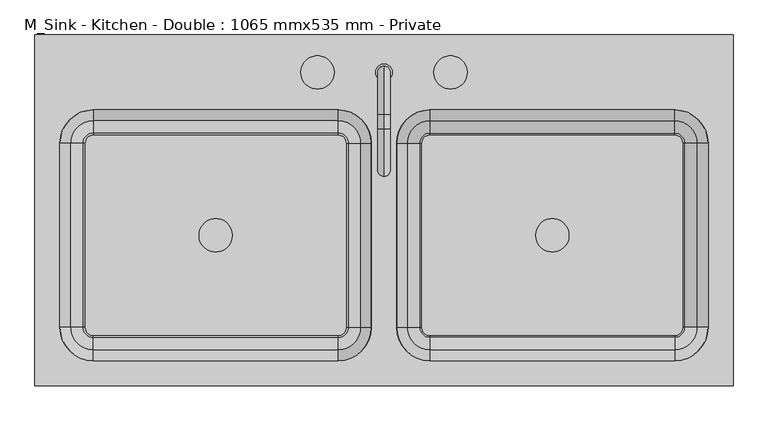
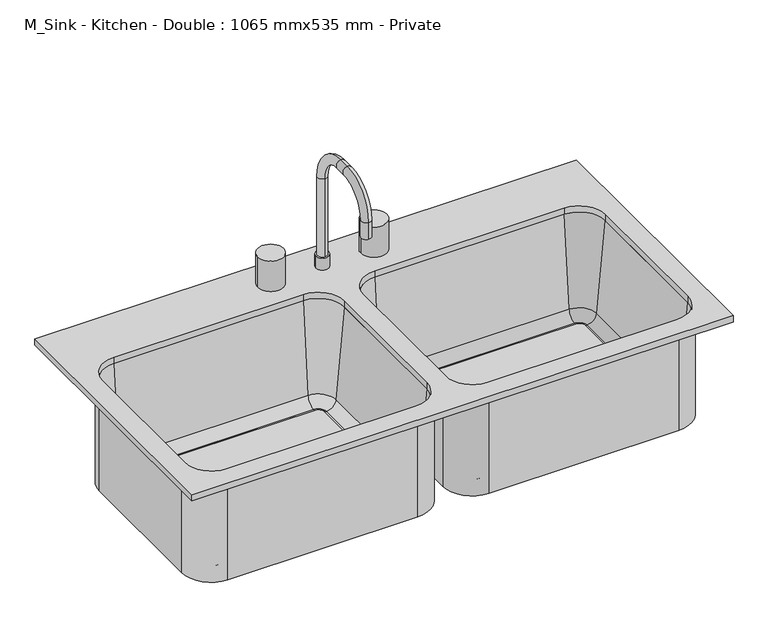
"""IFC4 building model written with IfcOpenShell, lengths in millimetres: flow terminal geometry, M_Sink - Kitchen - Double : 1065 mmx535 mm - Private."""

from ifc_helpers import new_model, si_unit, point, frame, frame_2d, origin, origin_with_axes, place, context, project, spatial, polyline, circle_curve, ellipse_curve, trimmed, segment, composite_curve, outline, extrude, source, transform, mapped, element, save
from ifc_brep_helpers import plane_surface, cylinder_surface, revolved_surface, advanced_brep


def m_sink_kitchen_double_1065_mmx535_mm_private_a90f4076(model_context):
    return source(origin(), model_context, "Body", "SolidModel", [
        extrude(outline(polyline([(532.5, 0.0), (532.5, -535.0), (-532.5, -535.0), (-532.5, 0.0), (532.5, 0.0)]), holes=[composite_curve([segment(polyline([(-69.9, -114.35), (-443.55, -114.35)]), True, "CONTINUOUS"), segment(trimmed(circle_curve(frame_2d((-443.55, -165.15)), 50.8), [point((-443.55, -114.35))], [point((-494.35, -165.15))], True, "CARTESIAN"), True, "CONTINUOUS"), segment(polyline([(-494.35, -165.15), (-494.35, -446.05)]), True, "CONTINUOUS"), segment(trimmed(circle_curve(frame_2d((-443.55, -446.05)), 50.8), [point((-494.35, -446.05))], [point((-443.55, -496.85))], True, "CARTESIAN"), True, "CONTINUOUS"), segment(polyline([(-443.55, -496.85), (-69.9, -496.85)]), True, "CONTINUOUS"), segment(trimmed(circle_curve(frame_2d((-69.9, -446.05)), 50.8), [point((-69.9, -496.85))], [point((-19.1, -446.05))], True, "CARTESIAN"), True, "CONTINUOUS"), segment(polyline([(-19.1, -446.05), (-19.1, -165.15)]), True, "CONTINUOUS"), segment(trimmed(circle_curve(frame_2d((-69.9, -165.15)), 50.8), [point((-19.1, -165.15))], [point((-69.9, -114.35))], True, "CARTESIAN"), True, "CONTINUOUS")], self_intersect=False), composite_curve([segment(polyline([(69.9, -496.85), (443.55, -496.85)]), True, "CONTINUOUS"), segment(trimmed(circle_curve(frame_2d((443.55, -446.05)), 50.8), [point((443.55, -496.85))], [point((494.35, -446.05))], True, "CARTESIAN"), True, "CONTINUOUS"), segment(polyline([(494.35, -446.05), (494.35, -165.1)]), True, "CONTINUOUS"), segment(trimmed(circle_curve(frame_2d((443.6, -165.1)), 50.75), [point((494.35, -165.1))], [point((443.6, -114.35))], True, "CARTESIAN"), True, "CONTINUOUS"), segment(polyline([(443.6, -114.35), (69.9, -114.35)]), True, "CONTINUOUS"), segment(trimmed(circle_curve(frame_2d((69.9, -165.15)), 50.8), [point((69.9, -114.35))], [point((19.1, -165.15))], True, "CARTESIAN"), True, "CONTINUOUS"), segment(polyline([(19.1, -165.15), (19.1, -446.05)]), True, "CONTINUOUS"), segment(trimmed(circle_curve(frame_2d((69.9, -446.05)), 50.8), [point((19.1, -446.05))], [point((69.9, -496.85))], True, "CARTESIAN"), True, "CONTINUOUS")], self_intersect=False)]), origin_with_axes(), (0.0, 0.0, 1.0), 12.7),
        advanced_brep(
        [(-12.7, -165.15, -214.525), (-69.9, -107.95, -214.525), (-69.9, -107.95, 0.0), (-12.7, -165.15, 0.0), (-57.2, -165.15, -214.525), (-69.9, -152.45, -214.525), (-57.2, -165.15, -205.0), (-69.9, -152.45, -205.0), (-54.6115818, -165.15, -205.0), (-69.9, -149.8615818, -205.0), (-35.6340728, -165.15, -187.6103169), (-69.9, -130.8840728, -187.6103169), (-19.1, -165.15, 0.0), (-69.9, -114.35, 0.0), (-12.7, -446.05, 0.0), (-12.7, -446.05, -214.525), (-57.2, -446.05, -214.525), (-57.2, -446.05, -205.0), (-54.6115818, -446.05, -205.0), (-35.6340728, -446.05, -187.6103169), (-19.1, -446.05, 0.0), (-69.9, -503.25, -214.525), (-69.9, -503.25, 0.0), (-69.9, -458.75, -214.525), (-69.9, -458.75, -205.0), (-69.9, -461.3384182, -205.0), (-69.9, -480.3159272, -187.6103169), (-69.9, -496.85, 0.0), (-443.55, -503.25, 0.0), (-443.55, -503.25, -214.525), (-443.55, -458.75, -214.525), (-443.55, -458.75, -205.0), (-443.55, -461.3384182, -205.0), (-443.55, -480.3159272, -187.6103169), (-443.55, -496.85, 0.0), (-500.75, -446.05, -214.525), (-500.75, -446.05, 0.0), (-456.25, -446.05, -214.525), (-456.25, -446.05, -205.0), (-458.8384182, -446.05, -205.0), (-477.8159272, -446.05, -187.6103169), (-494.35, -446.05, 0.0), (-500.75, -165.15, 0.0), (-500.75, -165.15, -214.525), (-456.25, -165.15, -214.525), (-456.25, -165.15, -205.0), (-458.8384182, -165.15, -205.0), (-477.8159272, -165.15, -187.6103169), (-494.35, -165.15, 0.0), (-443.55, -107.95, -214.525), (-443.55, -107.95, 0.0), (-443.55, -152.45, -214.525), (-443.55, -152.45, -205.0), (-443.55, -149.8615818, -205.0), (-443.55, -130.8840728, -187.6103169), (-443.55, -114.35, 0.0)],
        [
            (0, 1, circle_curve(frame((-69.9, -165.15, -214.525), z_axis=(0.0, 0.0, 1.0), x_axis=(0.0, 1.0, 0.0)), 57.2)),
            (1, 2),
            (2, 3, circle_curve(frame((-69.9, -165.15, 0.0), z_axis=(0.0, 0.0, -1.0), x_axis=(0.0, 1.0, 0.0)), 57.2)),
            (3, 0),
            (4, 5, circle_curve(frame((-69.9, -165.15, -214.525), z_axis=(0.0, 0.0, 1.0), x_axis=(0.0, 1.0, 0.0)), 12.7)),
            (5, 1),
            (0, 4),
            (6, 7, circle_curve(frame((-69.9, -165.15, -205.0), z_axis=(0.0, 0.0, 1.0), x_axis=(0.0, 1.0, 0.0)), 12.7)),
            (7, 5),
            (4, 6),
            (8, 9, circle_curve(frame((-69.9, -165.15, -205.0), z_axis=(0.0, 0.0, 1.0), x_axis=(0.0, 1.0, 0.0)), 15.2884182)),
            (9, 7),
            (6, 8),
            (10, 11, circle_curve(frame((-69.9, -165.15, -187.6103169), z_axis=(0.0, 0.0, 1.0), x_axis=(0.0, 1.0, 0.0)), 34.2659272)),
            (11, 9, circle_curve(frame((-69.9, -149.8615818, -185.95), z_axis=(-1.0, 0.0, 0.0), x_axis=(0.0, 1.0, 0.0)), 19.05)),
            (8, 10, circle_curve(frame((-54.6115818, -165.15, -185.95), z_axis=(0.0, -1.0, 0.0), x_axis=(1.0, 0.0, 0.0)), 19.05)),
            (12, 13, circle_curve(frame((-69.9, -165.15, 0.0), z_axis=(0.0, 0.0, 1.0), x_axis=(0.0, 1.0, 0.0)), 50.8)),
            (13, 11),
            (10, 12),
            (2, 13),
            (12, 3),
            (3, 14),
            (14, 15),
            (15, 0),
            (15, 16),
            (16, 4),
            (16, 17),
            (17, 6),
            (17, 18),
            (18, 8),
            (18, 19, circle_curve(frame((-54.6115818, -446.05, -185.95), z_axis=(0.0, -1.0, 0.0), x_axis=(1.0, 0.0, 0.0)), 19.05)),
            (19, 10),
            (19, 20),
            (20, 12),
            (20, 14),
            (21, 15, circle_curve(frame((-69.9, -446.05, -214.525), z_axis=(0.0, 0.0, 1.0), x_axis=(1.0, 0.0, 0.0)), 57.2)),
            (14, 22, circle_curve(frame((-69.9, -446.05, 0.0), z_axis=(0.0, 0.0, -1.0), x_axis=(1.0, 0.0, 0.0)), 57.2)),
            (22, 21),
            (23, 16, circle_curve(frame((-69.9, -446.05, -214.525), z_axis=(0.0, 0.0, 1.0), x_axis=(1.0, 0.0, 0.0)), 12.7)),
            (21, 23),
            (24, 17, circle_curve(frame((-69.9, -446.05, -205.0), z_axis=(0.0, 0.0, 1.0), x_axis=(1.0, 0.0, 0.0)), 12.7)),
            (23, 24),
            (25, 18, circle_curve(frame((-69.9, -446.05, -205.0), z_axis=(0.0, 0.0, 1.0), x_axis=(1.0, 0.0, 0.0)), 15.2884182)),
            (24, 25),
            (26, 19, circle_curve(frame((-69.9, -446.05, -187.6103169), z_axis=(0.0, 0.0, 1.0), x_axis=(1.0, 0.0, 0.0)), 34.2659272)),
            (25, 26, circle_curve(frame((-69.9, -461.3384182, -185.95), z_axis=(-1.0, 0.0, 0.0), x_axis=(0.0, -1.0, 0.0)), 19.05)),
            (27, 20, circle_curve(frame((-69.9, -446.05, 0.0), z_axis=(0.0, 0.0, 1.0), x_axis=(1.0, 0.0, 0.0)), 50.8)),
            (26, 27),
            (27, 22),
            (22, 28),
            (28, 29),
            (29, 21),
            (29, 30),
            (30, 23),
            (30, 31),
            (31, 24),
            (31, 32),
            (32, 25),
            (32, 33, circle_curve(frame((-443.55, -461.3384182, -185.95), z_axis=(-1.0, 0.0, 0.0), x_axis=(0.0, -1.0, 0.0)), 19.05)),
            (33, 26),
            (33, 34),
            (34, 27),
            (34, 28),
            (35, 29, circle_curve(frame((-443.55, -446.05, -214.525), z_axis=(0.0, 0.0, 1.0), x_axis=(0.0, -1.0, 0.0)), 57.2)),
            (28, 36, circle_curve(frame((-443.55, -446.05, 0.0), z_axis=(0.0, 0.0, -1.0), x_axis=(0.0, -1.0, 0.0)), 57.2)),
            (36, 35),
            (37, 30, circle_curve(frame((-443.55, -446.05, -214.525), z_axis=(0.0, 0.0, 1.0), x_axis=(0.0, -1.0, 0.0)), 12.7)),
            (35, 37),
            (38, 31, circle_curve(frame((-443.55, -446.05, -205.0), z_axis=(0.0, 0.0, 1.0), x_axis=(0.0, -1.0, 0.0)), 12.7)),
            (37, 38),
            (39, 32, circle_curve(frame((-443.55, -446.05, -205.0), z_axis=(0.0, 0.0, 1.0), x_axis=(0.0, -1.0, 0.0)), 15.2884182)),
            (38, 39),
            (40, 33, circle_curve(frame((-443.55, -446.05, -187.6103169), z_axis=(0.0, 0.0, 1.0), x_axis=(0.0, -1.0, 0.0)), 34.2659272)),
            (39, 40, circle_curve(frame((-458.8384182, -446.05, -185.95), z_axis=(0.0, 1.0, 0.0), x_axis=(-1.0, 0.0, 0.0)), 19.05)),
            (41, 34, circle_curve(frame((-443.55, -446.05, 0.0), z_axis=(0.0, 0.0, 1.0), x_axis=(0.0, -1.0, 0.0)), 50.8)),
            (40, 41),
            (41, 36),
            (36, 42),
            (42, 43),
            (43, 35),
            (43, 44),
            (44, 37),
            (44, 45),
            (45, 38),
            (45, 46),
            (46, 39),
            (46, 47, circle_curve(frame((-458.8384182, -165.15, -185.95), z_axis=(0.0, 1.0, 0.0), x_axis=(-1.0, 0.0, 0.0)), 19.05)),
            (47, 40),
            (47, 48),
            (48, 41),
            (48, 42),
            (49, 43, circle_curve(frame((-443.55, -165.15, -214.525), z_axis=(0.0, 0.0, 1.0), x_axis=(-1.0, 0.0, 0.0)), 57.2)),
            (42, 50, circle_curve(frame((-443.55, -165.15, 0.0), z_axis=(0.0, 0.0, -1.0), x_axis=(-1.0, 0.0, 0.0)), 57.2)),
            (50, 49),
            (51, 44, circle_curve(frame((-443.55, -165.15, -214.525), z_axis=(0.0, 0.0, 1.0), x_axis=(-1.0, 0.0, 0.0)), 12.7)),
            (49, 51),
            (52, 45, circle_curve(frame((-443.55, -165.15, -205.0), z_axis=(0.0, 0.0, 1.0), x_axis=(-1.0, 0.0, 0.0)), 12.7)),
            (51, 52),
            (53, 46, circle_curve(frame((-443.55, -165.15, -205.0), z_axis=(0.0, 0.0, 1.0), x_axis=(-1.0, 0.0, 0.0)), 15.2884182)),
            (52, 53),
            (54, 47, circle_curve(frame((-443.55, -165.15, -187.6103169), z_axis=(0.0, 0.0, 1.0), x_axis=(-1.0, 0.0, 0.0)), 34.2659272)),
            (53, 54, circle_curve(frame((-443.55, -149.8615818, -185.95), z_axis=(1.0, 0.0, 0.0), x_axis=(0.0, 1.0, 0.0)), 19.05)),
            (55, 48, circle_curve(frame((-443.55, -165.15, 0.0), z_axis=(0.0, 0.0, 1.0), x_axis=(-1.0, 0.0, 0.0)), 50.8)),
            (54, 55),
            (55, 50),
            (50, 2),
            (1, 49),
            (5, 51),
            (7, 52),
            (9, 53),
            (11, 54),
            (13, 55),
        ],
        [
            cylinder_surface(frame((-69.9, -165.15, -914.4), z_axis=(0.0, 0.0, -1.0), x_axis=(0.0, 1.0, 0.0)), 57.2),
            plane_surface(frame((-69.9, -165.15, -214.525), z_axis=(0.0, 0.0, -1.0), x_axis=(0.0, 1.0, 0.0))),
            revolved_surface(polyline([(-69.9, -152.45000000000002, -214.52499999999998), (-69.9, -152.45000000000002, -205.0)]), (-69.9, -165.15, -914.4), (0.0, 0.0, -1.0)),
            plane_surface(frame((-69.9, -165.15, -205.0), z_axis=(0.0, 0.0, 1.0), x_axis=(0.0, 1.0, 0.0))),
            revolved_surface(trimmed(ellipse_curve(frame((-69.9, -149.8615818, -185.95), z_axis=(1.0, 0.0, 0.0), x_axis=(0.0, 1.0, 0.0)), 19.05, 19.05), [point((-69.9, -149.8615818, -205.0))], [point((-69.9, -130.8840728, -187.6103169))], True, "CARTESIAN"), (-69.9, -165.15, -914.4), (0.0, 0.0, -1.0)),
            revolved_surface(polyline([(-69.9, -130.8840728, -187.6103169), (-69.9, -114.35, 0.0)]), (-69.9, -165.15, -914.4), (0.0, 0.0, -1.0)),
            plane_surface(frame((-69.9, -165.15, 0.0), z_axis=(0.0, 0.0, 1.0), x_axis=(0.0, 1.0, 0.0))),
            plane_surface(frame((-12.7, -165.15, 0.0), z_axis=(1.0, 0.0, 0.0), x_axis=(0.0, -1.0, 0.0))),
            plane_surface(frame((-12.7, -165.15, -214.525), z_axis=(0.0, 0.0, -1.0), x_axis=(0.0, -1.0, 0.0))),
            plane_surface(frame((-57.2, -165.15, -214.525), z_axis=(-1.0, 0.0, 0.0), x_axis=(0.0, -1.0, 0.0))),
            plane_surface(frame((-57.2, -165.15, -205.0), z_axis=(0.0, 0.0, 1.0), x_axis=(0.0, -1.0, 0.0))),
            revolved_surface(polyline([(-35.5615818, -446.04999999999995, -185.95), (-35.5615818, -165.15, -185.95)]), (-54.6115818, -165.15, -185.95), (0.0, -1.0, 0.0)),
            plane_surface(frame((-35.6340728, -165.15, -187.6103169), z_axis=(-0.9961390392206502, 0.0, 0.08778960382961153), x_axis=(0.0, -1.0, 0.0))),
            plane_surface(frame((-19.1, -165.15, 0.0), z_axis=(0.0, 0.0, 1.0), x_axis=(0.0, -1.0, 0.0))),
            cylinder_surface(frame((-69.9, -446.05, -914.4), z_axis=(0.0, 0.0, -1.0), x_axis=(1.0, 0.0, 0.0)), 57.2),
            plane_surface(frame((-69.9, -446.05, -214.525), z_axis=(0.0, 0.0, -1.0), x_axis=(1.0, 0.0, 0.0))),
            revolved_surface(polyline([(-57.2, -446.05, -214.52499999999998), (-57.2, -446.05, -205.0)]), (-69.9, -446.05, -914.4), (0.0, 0.0, -1.0)),
            plane_surface(frame((-69.9, -446.05, -205.0), z_axis=(0.0, 0.0, 1.0), x_axis=(1.0, 0.0, 0.0))),
            revolved_surface(trimmed(ellipse_curve(frame((-54.6115818, -446.05, -185.95), z_axis=(0.0, -1.0, 0.0), x_axis=(1.0, 0.0, 0.0)), 19.05, 19.05), [point((-54.6115818, -446.05, -205.0))], [point((-35.6340728, -446.05, -187.6103169))], True, "CARTESIAN"), (-69.9, -446.05, -914.4), (0.0, 0.0, -1.0)),
            revolved_surface(polyline([(-35.6340728, -446.05, -187.6103169), (-19.1, -446.05, 0.0)]), (-69.9, -446.05, -914.4), (0.0, 0.0, -1.0)),
            plane_surface(frame((-69.9, -446.05, 0.0), z_axis=(0.0, 0.0, 1.0), x_axis=(1.0, 0.0, 0.0))),
            plane_surface(frame((-69.9, -503.25, 0.0), z_axis=(0.0, -1.0, 0.0), x_axis=(-1.0, 0.0, 0.0))),
            plane_surface(frame((-69.9, -503.25, -214.525), z_axis=(0.0, 0.0, -1.0), x_axis=(-1.0, 0.0, 0.0))),
            plane_surface(frame((-69.9, -458.75, -214.525), z_axis=(0.0, 1.0, 0.0), x_axis=(-1.0, 0.0, 0.0))),
            plane_surface(frame((-69.9, -458.75, -205.0), z_axis=(0.0, 0.0, 1.0), x_axis=(-1.0, 0.0, 0.0))),
            revolved_surface(polyline([(-443.54999999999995, -480.3884182, -185.95), (-69.9, -480.3884182, -185.95)]), (-69.9, -461.3384182, -185.95), (-1.0, 0.0, 0.0)),
            plane_surface(frame((-69.9, -480.3159272, -187.6103169), z_axis=(0.0, 0.9961390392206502, 0.08778960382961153), x_axis=(-1.0, 0.0, 0.0))),
            plane_surface(frame((-69.9, -496.85, 0.0), z_axis=(0.0, 0.0, 1.0), x_axis=(-1.0, 0.0, 0.0))),
            cylinder_surface(frame((-443.55, -446.05, -914.4), z_axis=(0.0, 0.0, -1.0), x_axis=(0.0, -1.0, 0.0)), 57.2),
            plane_surface(frame((-443.55, -446.05, -214.525), z_axis=(0.0, 0.0, -1.0), x_axis=(0.0, -1.0, 0.0))),
            revolved_surface(polyline([(-443.55, -458.75, -214.52499999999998), (-443.55, -458.75, -205.0)]), (-443.55, -446.05, -914.4), (0.0, 0.0, -1.0)),
            plane_surface(frame((-443.55, -446.05, -205.0), z_axis=(0.0, 0.0, 1.0), x_axis=(0.0, -1.0, 0.0))),
            revolved_surface(trimmed(ellipse_curve(frame((-443.55, -461.3384182, -185.95), z_axis=(-1.0, 0.0, 0.0), x_axis=(0.0, -1.0, 0.0)), 19.05, 19.05), [point((-443.55, -461.3384182, -205.0))], [point((-443.55, -480.3159272, -187.6103169))], True, "CARTESIAN"), (-443.55, -446.05, -914.4), (0.0, 0.0, -1.0)),
            revolved_surface(polyline([(-443.55, -480.3159272, -187.6103169), (-443.55, -496.85, 0.0)]), (-443.55, -446.05, -914.4), (0.0, 0.0, -1.0)),
            plane_surface(frame((-443.55, -446.05, 0.0), z_axis=(0.0, 0.0, 1.0), x_axis=(0.0, -1.0, 0.0))),
            plane_surface(frame((-500.75, -446.05, 0.0), z_axis=(-1.0, 0.0, 0.0), x_axis=(0.0, 1.0, 0.0))),
            plane_surface(frame((-500.75, -446.05, -214.525), z_axis=(0.0, 0.0, -1.0), x_axis=(0.0, 1.0, 0.0))),
            plane_surface(frame((-456.25, -446.05, -214.525), z_axis=(1.0, 0.0, 0.0), x_axis=(0.0, 1.0, 0.0))),
            plane_surface(frame((-456.25, -446.05, -205.0), z_axis=(0.0, 0.0, 1.0), x_axis=(0.0, 1.0, 0.0))),
            revolved_surface(polyline([(-477.8884182, -165.15000000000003, -185.95), (-477.8884182, -446.05, -185.95)]), (-458.8384182, -446.05, -185.95), (0.0, 1.0, 0.0)),
            plane_surface(frame((-477.8159272, -446.05, -187.6103169), z_axis=(0.9961390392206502, 0.0, 0.08778960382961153), x_axis=(0.0, 1.0, 0.0))),
            plane_surface(frame((-494.35, -446.05, 0.0), z_axis=(0.0, 0.0, 1.0), x_axis=(0.0, 1.0, 0.0))),
            cylinder_surface(frame((-443.55, -165.15, -914.4), z_axis=(0.0, 0.0, -1.0), x_axis=(-1.0, 0.0, 0.0)), 57.2),
            plane_surface(frame((-443.55, -165.15, -214.525), z_axis=(0.0, 0.0, -1.0), x_axis=(-1.0, 0.0, 0.0))),
            revolved_surface(polyline([(-456.25, -165.15, -214.52499999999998), (-456.25, -165.15, -205.0)]), (-443.55, -165.15, -914.4), (0.0, 0.0, -1.0)),
            plane_surface(frame((-443.55, -165.15, -205.0), z_axis=(0.0, 0.0, 1.0), x_axis=(-1.0, 0.0, 0.0))),
            revolved_surface(trimmed(ellipse_curve(frame((-458.8384182, -165.15, -185.95), z_axis=(0.0, 1.0, 0.0), x_axis=(-1.0, 0.0, 0.0)), 19.05, 19.05), [point((-458.8384182, -165.15, -205.0))], [point((-477.8159272, -165.15, -187.6103169))], True, "CARTESIAN"), (-443.55, -165.15, -914.4), (0.0, 0.0, -1.0)),
            revolved_surface(polyline([(-477.8159272, -165.15, -187.6103169), (-494.35, -165.15, 0.0)]), (-443.55, -165.15, -914.4), (0.0, 0.0, -1.0)),
            plane_surface(frame((-443.55, -165.15, 0.0), z_axis=(0.0, 0.0, 1.0), x_axis=(-1.0, 0.0, 0.0))),
            plane_surface(frame((-443.55, -107.95, 0.0), z_axis=(0.0, 1.0, 0.0), x_axis=(1.0, 0.0, 0.0))),
            plane_surface(frame((-443.55, -107.95, -214.525), z_axis=(0.0, 0.0, -1.0), x_axis=(1.0, 0.0, 0.0))),
            plane_surface(frame((-443.55, -152.45, -214.525), z_axis=(0.0, -1.0, 0.0), x_axis=(1.0, 0.0, 0.0))),
            plane_surface(frame((-443.55, -152.45, -205.0), z_axis=(0.0, 0.0, 1.0), x_axis=(1.0, 0.0, 0.0))),
            revolved_surface(polyline([(-69.90000000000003, -130.8115818, -185.95), (-443.55, -130.8115818, -185.95)]), (-443.55, -149.8615818, -185.95), (1.0, 0.0, 0.0)),
            plane_surface(frame((-443.55, -130.8840728, -187.6103169), z_axis=(0.0, -0.9961390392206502, 0.08778960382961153), x_axis=(1.0, 0.0, 0.0))),
            plane_surface(frame((-443.55, -114.35, 0.0), z_axis=(0.0, 0.0, 1.0), x_axis=(1.0, 0.0, 0.0))),
        ],
        [
            (0, [[1, 2, 3, 4]]),
            (1, [[5, 6, -1, 7]]),
            (2, [[8, 9, -5, 10]]),
            (3, [[11, 12, -8, 13]]),
            (4, [[14, 15, -11, 16]]),
            (5, [[17, 18, -14, 19]]),
            (6, [[-3, 20, -17, 21]]),
            (7, [[-4, 22, 23, 24]]),
            (8, [[-7, -24, 25, 26]]),
            (9, [[-10, -26, 27, 28]]),
            (10, [[-13, -28, 29, 30]]),
            (11, [[-16, -30, 31, 32]]),
            (12, [[-19, -32, 33, 34]]),
            (13, [[-21, -34, 35, -22]]),
            (14, [[36, -23, 37, 38]]),
            (15, [[39, -25, -36, 40]]),
            (16, [[41, -27, -39, 42]]),
            (17, [[43, -29, -41, 44]]),
            (18, [[45, -31, -43, 46]]),
            (19, [[47, -33, -45, 48]]),
            (20, [[-37, -35, -47, 49]]),
            (21, [[-38, 50, 51, 52]]),
            (22, [[-40, -52, 53, 54]]),
            (23, [[-42, -54, 55, 56]]),
            (24, [[-44, -56, 57, 58]]),
            (25, [[-46, -58, 59, 60]]),
            (26, [[-48, -60, 61, 62]]),
            (27, [[-49, -62, 63, -50]]),
            (28, [[64, -51, 65, 66]]),
            (29, [[67, -53, -64, 68]]),
            (30, [[69, -55, -67, 70]]),
            (31, [[71, -57, -69, 72]]),
            (32, [[73, -59, -71, 74]]),
            (33, [[75, -61, -73, 76]]),
            (34, [[-65, -63, -75, 77]]),
            (35, [[-66, 78, 79, 80]]),
            (36, [[-68, -80, 81, 82]]),
            (37, [[-70, -82, 83, 84]]),
            (38, [[-72, -84, 85, 86]]),
            (39, [[-74, -86, 87, 88]]),
            (40, [[-76, -88, 89, 90]]),
            (41, [[-77, -90, 91, -78]]),
            (42, [[92, -79, 93, 94]]),
            (43, [[95, -81, -92, 96]]),
            (44, [[97, -83, -95, 98]]),
            (45, [[99, -85, -97, 100]]),
            (46, [[101, -87, -99, 102]]),
            (47, [[103, -89, -101, 104]]),
            (48, [[-93, -91, -103, 105]]),
            (49, [[-94, 106, -2, 107]]),
            (50, [[-96, -107, -6, 108]]),
            (51, [[-98, -108, -9, 109]]),
            (52, [[-100, -109, -12, 110]]),
            (53, [[-102, -110, -15, 111]]),
            (54, [[-104, -111, -18, 112]]),
            (55, [[-105, -112, -20, -106]]),
        ],
    ),
        extrude(outline(composite_curve([segment(trimmed(circle_curve(frame_2d((-69.9, -165.15)), 12.7), [point((-69.9, -152.45))], [point((-57.2, -165.15))], False, "CARTESIAN"), True, "CONTINUOUS"), segment(polyline([(-57.2, -165.15), (-57.2, -446.05)]), True, "CONTINUOUS"), segment(trimmed(circle_curve(frame_2d((-69.9, -446.05)), 12.7), [point((-57.2, -446.05))], [point((-69.9, -458.75))], False, "CARTESIAN"), True, "CONTINUOUS"), segment(polyline([(-69.9, -458.75), (-443.55, -458.75)]), True, "CONTINUOUS"), segment(trimmed(circle_curve(frame_2d((-443.55, -446.05)), 12.7), [point((-443.55, -458.75))], [point((-456.25, -446.05))], False, "CARTESIAN"), True, "CONTINUOUS"), segment(polyline([(-456.25, -446.05), (-456.25, -165.15)]), True, "CONTINUOUS"), segment(trimmed(circle_curve(frame_2d((-443.55, -165.15)), 12.7), [point((-456.25, -165.15))], [point((-443.55, -152.45))], False, "CARTESIAN"), True, "CONTINUOUS"), segment(polyline([(-443.55, -152.45), (-69.9, -152.45)]), True, "CONTINUOUS")], self_intersect=False), holes=[composite_curve([segment(trimmed(circle_curve(frame_2d((-256.725, -305.6)), 25.4), [point((-282.125, -305.6))], [point((-231.325, -305.6))], True, "CARTESIAN"), True, "CONTINUOUS"), segment(trimmed(circle_curve(frame_2d((-256.725, -305.6)), 25.4), [point((-231.325, -305.6))], [point((-282.125, -305.6))], True, "CARTESIAN"), True, "CONTINUOUS")], self_intersect=False)]), frame((0.0, 0.0, -214.525), z_axis=(0.0, 0.0, 1.0), x_axis=(1.0, 0.0, 0.0)), (0.0, 0.0, 1.0), 9.525),
        advanced_brep(
        [(19.1, -165.15, 0.0), (69.9, -114.35, 0.0), (69.9, -107.95, 0.0), (12.7, -165.15, 0.0), (35.6340728, -165.15, -187.6103169), (69.9, -130.8840728, -187.6103169), (54.6115818, -165.15, -205.0), (69.9, -149.8615818, -205.0), (57.2, -165.15, -205.0), (69.9, -152.45, -205.0), (57.2, -165.15, -214.525), (69.9, -152.45, -214.525), (12.7, -165.15, -214.525), (69.9, -107.95, -214.525), (12.7, -446.05, 0.0), (19.1, -446.05, 0.0), (35.6340728, -446.05, -187.6103169), (54.6115818, -446.05, -205.0), (57.2, -446.05, -205.0), (57.2, -446.05, -214.525), (12.7, -446.05, -214.525), (69.9, -496.85, 0.0), (69.9, -503.25, 0.0), (69.9, -480.3159272, -187.6103169), (69.9, -461.3384182, -205.0), (69.9, -458.75, -205.0), (69.9, -458.75, -214.525), (69.9, -503.25, -214.525), (443.55, -503.25, 0.0), (443.55, -496.85, 0.0), (443.55, -480.3159272, -187.6103169), (443.55, -461.3384182, -205.0), (443.55, -458.75, -205.0), (443.55, -458.75, -214.525), (443.55, -503.25, -214.525), (494.35, -446.05, 0.0), (500.75, -446.05, 0.0), (477.8159272, -446.05, -187.6103169), (458.8384182, -446.05, -205.0), (456.25, -446.05, -205.0), (456.25, -446.05, -214.525), (500.75, -446.05, -214.525), (500.75, -165.15, 0.0), (494.35, -165.15, 0.0), (477.8159272, -165.15, -187.6103169), (458.8384182, -165.15, -205.0), (456.25, -165.15, -205.0), (456.25, -165.15, -214.525), (500.75, -165.15, -214.525), (443.55, -114.35, 0.0), (443.55, -107.95, 0.0), (443.55, -130.8840728, -187.6103169), (443.55, -149.8615818, -205.0), (443.55, -152.45, -205.0), (443.55, -152.45, -214.525), (443.55, -107.95, -214.525)],
        [
            (0, 1, circle_curve(frame((69.9, -165.15, 0.0), z_axis=(0.0, 0.0, -1.0), x_axis=(0.0, 1.0, 0.0)), 50.8)),
            (1, 2),
            (2, 3, circle_curve(frame((69.9, -165.15, 0.0), z_axis=(0.0, 0.0, 1.0), x_axis=(0.0, 1.0, 0.0)), 57.2)),
            (3, 0),
            (4, 5, circle_curve(frame((69.9, -165.15, -187.6103169), z_axis=(0.0, 0.0, -1.0), x_axis=(0.0, 1.0, 0.0)), 34.2659272)),
            (5, 1),
            (0, 4),
            (6, 7, circle_curve(frame((69.9, -165.15, -205.0), z_axis=(0.0, 0.0, -1.0), x_axis=(0.0, 1.0, 0.0)), 15.2884182)),
            (7, 5, circle_curve(frame((69.9, -149.8615818, -185.95), z_axis=(1.0, 0.0, 0.0), x_axis=(0.0, -1.0, 0.0)), 19.05)),
            (4, 6, circle_curve(frame((54.6115818, -165.15, -185.95), z_axis=(0.0, -1.0, 0.0), x_axis=(1.0, 0.0, 0.0)), 19.05)),
            (8, 9, circle_curve(frame((69.9, -165.15, -205.0), z_axis=(0.0, 0.0, -1.0), x_axis=(0.0, 1.0, 0.0)), 12.7)),
            (9, 7),
            (6, 8),
            (10, 11, circle_curve(frame((69.9, -165.15, -214.525), z_axis=(0.0, 0.0, -1.0), x_axis=(0.0, 1.0, 0.0)), 12.7)),
            (11, 9),
            (8, 10),
            (12, 13, circle_curve(frame((69.9, -165.15, -214.525), z_axis=(0.0, 0.0, -1.0), x_axis=(0.0, 1.0, 0.0)), 57.2)),
            (13, 11),
            (10, 12),
            (2, 13),
            (12, 3),
            (3, 14),
            (14, 15),
            (15, 0),
            (15, 16),
            (16, 4),
            (16, 17, circle_curve(frame((54.6115818, -446.05, -185.95), z_axis=(0.0, -1.0, 0.0), x_axis=(1.0, 0.0, 0.0)), 19.05)),
            (17, 6),
            (17, 18),
            (18, 8),
            (18, 19),
            (19, 10),
            (19, 20),
            (20, 12),
            (20, 14),
            (21, 15, circle_curve(frame((69.9, -446.05, 0.0), z_axis=(0.0, 0.0, -1.0), x_axis=(-1.0, 0.0, 0.0)), 50.8)),
            (14, 22, circle_curve(frame((69.9, -446.05, 0.0), z_axis=(0.0, 0.0, 1.0), x_axis=(-1.0, 0.0, 0.0)), 57.2)),
            (22, 21),
            (23, 16, circle_curve(frame((69.9, -446.05, -187.6103169), z_axis=(0.0, 0.0, -1.0), x_axis=(-1.0, 0.0, 0.0)), 34.2659272)),
            (21, 23),
            (24, 17, circle_curve(frame((69.9, -446.05, -205.0), z_axis=(0.0, 0.0, -1.0), x_axis=(-1.0, 0.0, 0.0)), 15.2884182)),
            (23, 24, circle_curve(frame((69.9, -461.3384182, -185.95), z_axis=(1.0, 0.0, 0.0), x_axis=(0.0, 1.0, 0.0)), 19.05)),
            (25, 18, circle_curve(frame((69.9, -446.05, -205.0), z_axis=(0.0, 0.0, -1.0), x_axis=(-1.0, 0.0, 0.0)), 12.7)),
            (24, 25),
            (26, 19, circle_curve(frame((69.9, -446.05, -214.525), z_axis=(0.0, 0.0, -1.0), x_axis=(-1.0, 0.0, 0.0)), 12.7)),
            (25, 26),
            (27, 20, circle_curve(frame((69.9, -446.05, -214.525), z_axis=(0.0, 0.0, -1.0), x_axis=(-1.0, 0.0, 0.0)), 57.2)),
            (26, 27),
            (27, 22),
            (22, 28),
            (28, 29),
            (29, 21),
            (29, 30),
            (30, 23),
            (30, 31, circle_curve(frame((443.55, -461.3384182, -185.95), z_axis=(1.0, 0.0, 0.0), x_axis=(0.0, 1.0, 0.0)), 19.05)),
            (31, 24),
            (31, 32),
            (32, 25),
            (32, 33),
            (33, 26),
            (33, 34),
            (34, 27),
            (34, 28),
            (35, 29, circle_curve(frame((443.55, -446.05, 0.0), z_axis=(0.0, 0.0, -1.0), x_axis=(0.0, -1.0, 0.0)), 50.8)),
            (28, 36, circle_curve(frame((443.55, -446.05, 0.0), z_axis=(0.0, 0.0, 1.0), x_axis=(0.0, -1.0, 0.0)), 57.2)),
            (36, 35),
            (37, 30, circle_curve(frame((443.55, -446.05, -187.6103169), z_axis=(0.0, 0.0, -1.0), x_axis=(0.0, -1.0, 0.0)), 34.2659272)),
            (35, 37),
            (38, 31, circle_curve(frame((443.55, -446.05, -205.0), z_axis=(0.0, 0.0, -1.0), x_axis=(0.0, -1.0, 0.0)), 15.2884182)),
            (37, 38, circle_curve(frame((458.8384182, -446.05, -185.95), z_axis=(0.0, 1.0, 0.0), x_axis=(-1.0, 0.0, 0.0)), 19.05)),
            (39, 32, circle_curve(frame((443.55, -446.05, -205.0), z_axis=(0.0, 0.0, -1.0), x_axis=(0.0, -1.0, 0.0)), 12.7)),
            (38, 39),
            (40, 33, circle_curve(frame((443.55, -446.05, -214.525), z_axis=(0.0, 0.0, -1.0), x_axis=(0.0, -1.0, 0.0)), 12.7)),
            (39, 40),
            (41, 34, circle_curve(frame((443.55, -446.05, -214.525), z_axis=(0.0, 0.0, -1.0), x_axis=(0.0, -1.0, 0.0)), 57.2)),
            (40, 41),
            (41, 36),
            (36, 42),
            (42, 43),
            (43, 35),
            (43, 44),
            (44, 37),
            (44, 45, circle_curve(frame((458.8384182, -165.15, -185.95), z_axis=(0.0, 1.0, 0.0), x_axis=(-1.0, 0.0, 0.0)), 19.05)),
            (45, 38),
            (45, 46),
            (46, 39),
            (46, 47),
            (47, 40),
            (47, 48),
            (48, 41),
            (48, 42),
            (49, 43, circle_curve(frame((443.55, -165.15, 0.0), z_axis=(0.0, 0.0, -1.0), x_axis=(1.0, 0.0, 0.0)), 50.8)),
            (42, 50, circle_curve(frame((443.55, -165.15, 0.0), z_axis=(0.0, 0.0, 1.0), x_axis=(1.0, 0.0, 0.0)), 57.2)),
            (50, 49),
            (51, 44, circle_curve(frame((443.55, -165.15, -187.6103169), z_axis=(0.0, 0.0, -1.0), x_axis=(1.0, 0.0, 0.0)), 34.2659272)),
            (49, 51),
            (52, 45, circle_curve(frame((443.55, -165.15, -205.0), z_axis=(0.0, 0.0, -1.0), x_axis=(1.0, 0.0, 0.0)), 15.2884182)),
            (51, 52, circle_curve(frame((443.55, -149.8615818, -185.95), z_axis=(-1.0, 0.0, 0.0), x_axis=(0.0, -1.0, 0.0)), 19.05)),
            (53, 46, circle_curve(frame((443.55, -165.15, -205.0), z_axis=(0.0, 0.0, -1.0), x_axis=(1.0, 0.0, 0.0)), 12.7)),
            (52, 53),
            (54, 47, circle_curve(frame((443.55, -165.15, -214.525), z_axis=(0.0, 0.0, -1.0), x_axis=(1.0, 0.0, 0.0)), 12.7)),
            (53, 54),
            (55, 48, circle_curve(frame((443.55, -165.15, -214.525), z_axis=(0.0, 0.0, -1.0), x_axis=(1.0, 0.0, 0.0)), 57.2)),
            (54, 55),
            (55, 50),
            (50, 2),
            (1, 49),
            (5, 51),
            (7, 52),
            (9, 53),
            (11, 54),
            (13, 55),
        ],
        [
            plane_surface(frame((69.9, -165.15, 0.0), z_axis=(0.0, 0.0, 1.0), x_axis=(0.0, 1.0, 0.0))),
            revolved_surface(polyline([(69.9, -114.35, 0.0), (69.9, -130.8840728, -187.6103169)]), (69.9, -165.15, -914.4), (0.0, 0.0, 1.0)),
            revolved_surface(trimmed(ellipse_curve(frame((69.9, -149.8615818, -185.95), z_axis=(-1.0, 0.0, 0.0), x_axis=(0.0, -1.0, 0.0)), 19.05, 19.05), [point((69.9, -130.8840728, -187.6103169))], [point((69.9, -149.8615818, -205.0))], True, "CARTESIAN"), (69.9, -165.15, -914.4), (0.0, 0.0, 1.0)),
            plane_surface(frame((69.9, -165.15, -205.0), z_axis=(0.0, 0.0, 1.0), x_axis=(0.0, 1.0, 0.0))),
            revolved_surface(polyline([(69.9, -152.45000000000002, -205.0), (69.9, -152.45000000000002, -214.52499999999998)]), (69.9, -165.15, -914.4), (0.0, 0.0, 1.0)),
            plane_surface(frame((69.9, -165.15, -214.525), z_axis=(0.0, 0.0, -1.0), x_axis=(0.0, 1.0, 0.0))),
            cylinder_surface(frame((69.9, -165.15, -914.4), z_axis=(0.0, 0.0, 1.0), x_axis=(0.0, 1.0, 0.0)), 57.2),
            plane_surface(frame((12.7, -165.15, 0.0), z_axis=(0.0, 0.0, 1.0), x_axis=(0.0, -1.0, 0.0))),
            plane_surface(frame((19.1, -165.15, 0.0), z_axis=(0.9961390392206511, 0.0, 0.08778960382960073), x_axis=(0.0, -1.0, 0.0))),
            revolved_surface(polyline([(73.66158180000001, -446.04999999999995, -185.95), (73.66158180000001, -165.15, -185.95)]), (54.6115818, -165.15, -185.95), (0.0, -1.0, 0.0)),
            plane_surface(frame((54.6115818, -165.15, -205.0), z_axis=(0.0, 0.0, 1.0), x_axis=(0.0, -1.0, 0.0))),
            plane_surface(frame((57.2, -165.15, -205.0), z_axis=(1.0, 0.0, 0.0), x_axis=(0.0, -1.0, 0.0))),
            plane_surface(frame((57.2, -165.15, -214.525), z_axis=(0.0, 0.0, -1.0), x_axis=(0.0, -1.0, 0.0))),
            plane_surface(frame((12.7, -165.15, -214.525), z_axis=(-1.0, 0.0, 0.0), x_axis=(0.0, -1.0, 0.0))),
            plane_surface(frame((69.9, -446.05, 0.0), z_axis=(0.0, 0.0, 1.0), x_axis=(-1.0, 0.0, 0.0))),
            revolved_surface(polyline([(19.1, -446.05, 0.0), (35.6340728, -446.05, -187.6103169)]), (69.9, -446.05, -914.4), (0.0, 0.0, 1.0)),
            revolved_surface(trimmed(ellipse_curve(frame((54.6115818, -446.05, -185.95), z_axis=(0.0, -1.0, 0.0), x_axis=(1.0, 0.0, 0.0)), 19.05, 19.05), [point((35.6340728, -446.05, -187.6103169))], [point((54.6115818, -446.05, -205.0))], True, "CARTESIAN"), (69.9, -446.05, -914.4), (0.0, 0.0, 1.0)),
            plane_surface(frame((69.9, -446.05, -205.0), z_axis=(0.0, 0.0, 1.0), x_axis=(-1.0, 0.0, 0.0))),
            revolved_surface(polyline([(57.2, -446.05, -205.0), (57.2, -446.05, -214.52499999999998)]), (69.9, -446.05, -914.4), (0.0, 0.0, 1.0)),
            plane_surface(frame((69.9, -446.05, -214.525), z_axis=(0.0, 0.0, -1.0), x_axis=(-1.0, 0.0, 0.0))),
            cylinder_surface(frame((69.9, -446.05, -914.4), z_axis=(0.0, 0.0, 1.0), x_axis=(-1.0, 0.0, 0.0)), 57.2),
            plane_surface(frame((69.9, -503.25, 0.0), z_axis=(0.0, 0.0, 1.0), x_axis=(1.0, 0.0, 0.0))),
            plane_surface(frame((69.9, -496.85, 0.0), z_axis=(0.0, 0.9961390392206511, 0.08778960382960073), x_axis=(1.0, 0.0, 0.0))),
            revolved_surface(polyline([(443.54999999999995, -442.28841819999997, -185.95), (69.9, -442.28841819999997, -185.95)]), (69.9, -461.3384182, -185.95), (1.0, 0.0, 0.0)),
            plane_surface(frame((69.9, -461.3384182, -205.0), z_axis=(0.0, 0.0, 1.0), x_axis=(1.0, 0.0, 0.0))),
            plane_surface(frame((69.9, -458.75, -205.0), z_axis=(0.0, 1.0, 0.0), x_axis=(1.0, 0.0, 0.0))),
            plane_surface(frame((69.9, -458.75, -214.525), z_axis=(0.0, 0.0, -1.0), x_axis=(1.0, 0.0, 0.0))),
            plane_surface(frame((69.9, -503.25, -214.525), z_axis=(0.0, -1.0, 0.0), x_axis=(1.0, 0.0, 0.0))),
            plane_surface(frame((443.55, -446.05, 0.0), z_axis=(0.0, 0.0, 1.0), x_axis=(0.0, -1.0, 0.0))),
            revolved_surface(polyline([(443.55, -496.85, 0.0), (443.55, -480.3159272, -187.6103169)]), (443.55, -446.05, -914.4), (0.0, 0.0, 1.0)),
            revolved_surface(trimmed(ellipse_curve(frame((443.55, -461.3384182, -185.95), z_axis=(1.0, 0.0, 0.0), x_axis=(0.0, 1.0, 0.0)), 19.05, 19.05), [point((443.55, -480.3159272, -187.6103169))], [point((443.55, -461.3384182, -205.0))], True, "CARTESIAN"), (443.55, -446.05, -914.4), (0.0, 0.0, 1.0)),
            plane_surface(frame((443.55, -446.05, -205.0), z_axis=(0.0, 0.0, 1.0), x_axis=(0.0, -1.0, 0.0))),
            revolved_surface(polyline([(443.55, -458.75, -205.0), (443.55, -458.75, -214.52499999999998)]), (443.55, -446.05, -914.4), (0.0, 0.0, 1.0)),
            plane_surface(frame((443.55, -446.05, -214.525), z_axis=(0.0, 0.0, -1.0), x_axis=(0.0, -1.0, 0.0))),
            cylinder_surface(frame((443.55, -446.05, -914.4), z_axis=(0.0, 0.0, 1.0), x_axis=(0.0, -1.0, 0.0)), 57.2),
            plane_surface(frame((500.75, -446.05, 0.0), z_axis=(0.0, 0.0, 1.0), x_axis=(0.0, 1.0, 0.0))),
            plane_surface(frame((494.35, -446.05, 0.0), z_axis=(-0.9961390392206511, 0.0, 0.08778960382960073), x_axis=(0.0, 1.0, 0.0))),
            revolved_surface(polyline([(439.78841819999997, -165.15000000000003, -185.95), (439.78841819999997, -446.05, -185.95)]), (458.8384182, -446.05, -185.95), (0.0, 1.0, 0.0)),
            plane_surface(frame((458.8384182, -446.05, -205.0), z_axis=(0.0, 0.0, 1.0), x_axis=(0.0, 1.0, 0.0))),
            plane_surface(frame((456.25, -446.05, -205.0), z_axis=(-1.0, 0.0, 0.0), x_axis=(0.0, 1.0, 0.0))),
            plane_surface(frame((456.25, -446.05, -214.525), z_axis=(0.0, 0.0, -1.0), x_axis=(0.0, 1.0, 0.0))),
            plane_surface(frame((500.75, -446.05, -214.525), z_axis=(1.0, 0.0, 0.0), x_axis=(0.0, 1.0, 0.0))),
            plane_surface(frame((443.55, -165.15, 0.0), z_axis=(0.0, 0.0, 1.0), x_axis=(1.0, 0.0, 0.0))),
            revolved_surface(polyline([(494.35, -165.15, 0.0), (477.8159272, -165.15, -187.6103169)]), (443.55, -165.15, -914.4), (0.0, 0.0, 1.0)),
            revolved_surface(trimmed(ellipse_curve(frame((458.8384182, -165.15, -185.95), z_axis=(0.0, 1.0, 0.0), x_axis=(-1.0, 0.0, 0.0)), 19.05, 19.05), [point((477.8159272, -165.15, -187.6103169))], [point((458.8384182, -165.15, -205.0))], True, "CARTESIAN"), (443.55, -165.15, -914.4), (0.0, 0.0, 1.0)),
            plane_surface(frame((443.55, -165.15, -205.0), z_axis=(0.0, 0.0, 1.0), x_axis=(1.0, 0.0, 0.0))),
            revolved_surface(polyline([(456.25, -165.15, -205.0), (456.25, -165.15, -214.52499999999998)]), (443.55, -165.15, -914.4), (0.0, 0.0, 1.0)),
            plane_surface(frame((443.55, -165.15, -214.525), z_axis=(0.0, 0.0, -1.0), x_axis=(1.0, 0.0, 0.0))),
            cylinder_surface(frame((443.55, -165.15, -914.4), z_axis=(0.0, 0.0, 1.0), x_axis=(1.0, 0.0, 0.0)), 57.2),
            plane_surface(frame((443.55, -107.95, 0.0), z_axis=(0.0, 0.0, 1.0), x_axis=(-1.0, 0.0, 0.0))),
            plane_surface(frame((443.55, -114.35, 0.0), z_axis=(0.0, -0.9961390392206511, 0.08778960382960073), x_axis=(-1.0, 0.0, 0.0))),
            revolved_surface(polyline([(69.90000000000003, -168.91158180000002, -185.95), (443.55, -168.91158180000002, -185.95)]), (443.55, -149.8615818, -185.95), (-1.0, 0.0, 0.0)),
            plane_surface(frame((443.55, -149.8615818, -205.0), z_axis=(0.0, 0.0, 1.0), x_axis=(-1.0, 0.0, 0.0))),
            plane_surface(frame((443.55, -152.45, -205.0), z_axis=(0.0, -1.0, 0.0), x_axis=(-1.0, 0.0, 0.0))),
            plane_surface(frame((443.55, -152.45, -214.525), z_axis=(0.0, 0.0, -1.0), x_axis=(-1.0, 0.0, 0.0))),
            plane_surface(frame((443.55, -107.95, -214.525), z_axis=(0.0, 1.0, 0.0), x_axis=(-1.0, 0.0, 0.0))),
        ],
        [
            (0, [[1, 2, 3, 4]]),
            (1, [[5, 6, -1, 7]]),
            (2, [[8, 9, -5, 10]]),
            (3, [[11, 12, -8, 13]]),
            (4, [[14, 15, -11, 16]]),
            (5, [[17, 18, -14, 19]]),
            (6, [[-3, 20, -17, 21]]),
            (7, [[-4, 22, 23, 24]]),
            (8, [[-7, -24, 25, 26]]),
            (9, [[-10, -26, 27, 28]]),
            (10, [[-13, -28, 29, 30]]),
            (11, [[-16, -30, 31, 32]]),
            (12, [[-19, -32, 33, 34]]),
            (13, [[-21, -34, 35, -22]]),
            (14, [[36, -23, 37, 38]]),
            (15, [[39, -25, -36, 40]]),
            (16, [[41, -27, -39, 42]]),
            (17, [[43, -29, -41, 44]]),
            (18, [[45, -31, -43, 46]]),
            (19, [[47, -33, -45, 48]]),
            (20, [[-37, -35, -47, 49]]),
            (21, [[-38, 50, 51, 52]]),
            (22, [[-40, -52, 53, 54]]),
            (23, [[-42, -54, 55, 56]]),
            (24, [[-44, -56, 57, 58]]),
            (25, [[-46, -58, 59, 60]]),
            (26, [[-48, -60, 61, 62]]),
            (27, [[-49, -62, 63, -50]]),
            (28, [[64, -51, 65, 66]]),
            (29, [[67, -53, -64, 68]]),
            (30, [[69, -55, -67, 70]]),
            (31, [[71, -57, -69, 72]]),
            (32, [[73, -59, -71, 74]]),
            (33, [[75, -61, -73, 76]]),
            (34, [[-65, -63, -75, 77]]),
            (35, [[-66, 78, 79, 80]]),
            (36, [[-68, -80, 81, 82]]),
            (37, [[-70, -82, 83, 84]]),
            (38, [[-72, -84, 85, 86]]),
            (39, [[-74, -86, 87, 88]]),
            (40, [[-76, -88, 89, 90]]),
            (41, [[-77, -90, 91, -78]]),
            (42, [[92, -79, 93, 94]]),
            (43, [[95, -81, -92, 96]]),
            (44, [[97, -83, -95, 98]]),
            (45, [[99, -85, -97, 100]]),
            (46, [[101, -87, -99, 102]]),
            (47, [[103, -89, -101, 104]]),
            (48, [[-93, -91, -103, 105]]),
            (49, [[-94, 106, -2, 107]]),
            (50, [[-96, -107, -6, 108]]),
            (51, [[-98, -108, -9, 109]]),
            (52, [[-100, -109, -12, 110]]),
            (53, [[-102, -110, -15, 111]]),
            (54, [[-104, -111, -18, 112]]),
            (55, [[-105, -112, -20, -106]]),
        ],
    ),
        extrude(outline(composite_curve([segment(trimmed(circle_curve(frame_2d((443.55, -165.15)), 12.7), [point((443.55, -152.45))], [point((456.25, -165.15))], False, "CARTESIAN"), True, "CONTINUOUS"), segment(polyline([(456.25, -165.15), (456.25, -446.05)]), True, "CONTINUOUS"), segment(trimmed(circle_curve(frame_2d((443.55, -446.05)), 12.7), [point((456.25, -446.05))], [point((443.55, -458.75))], False, "CARTESIAN"), True, "CONTINUOUS"), segment(polyline([(443.55, -458.75), (69.9, -458.75)]), True, "CONTINUOUS"), segment(trimmed(circle_curve(frame_2d((69.9, -446.05)), 12.7), [point((69.9, -458.75))], [point((57.2, -446.05))], False, "CARTESIAN"), True, "CONTINUOUS"), segment(polyline([(57.2, -446.05), (57.2, -165.15)]), True, "CONTINUOUS"), segment(trimmed(circle_curve(frame_2d((69.9, -165.15)), 12.7), [point((57.2, -165.15))], [point((69.9, -152.45))], False, "CARTESIAN"), True, "CONTINUOUS"), segment(polyline([(69.9, -152.45), (443.55, -152.45)]), True, "CONTINUOUS")], self_intersect=False), holes=[composite_curve([segment(trimmed(circle_curve(frame_2d((256.725, -305.6)), 25.4), [point((231.325, -305.6))], [point((282.125, -305.6))], True, "CARTESIAN"), True, "CONTINUOUS"), segment(trimmed(circle_curve(frame_2d((256.725, -305.6)), 25.4), [point((282.125, -305.6))], [point((231.325, -305.6))], True, "CARTESIAN"), True, "CONTINUOUS")], self_intersect=False)]), frame((0.0, 0.0, -214.525), z_axis=(0.0, 0.0, 1.0), x_axis=(1.0, 0.0, 0.0)), (0.0, 0.0, 1.0), 9.525),
        extrude(outline(composite_curve([segment(trimmed(circle_curve(frame_2d((-256.725, -305.6)), 25.4), [point((-282.125, -305.6))], [point((-231.325, -305.6))], False, "CARTESIAN"), True, "CONTINUOUS"), segment(trimmed(circle_curve(frame_2d((-256.725, -305.6)), 25.4), [point((-231.325, -305.6))], [point((-282.125, -305.6))], False, "CARTESIAN"), True, "CONTINUOUS")], self_intersect=False)), frame((0.0, 0.0, -214.525), z_axis=(0.0, 0.0, 1.0), x_axis=(1.0, 0.0, 0.0)), (0.0, 0.0, 1.0), 9.525),
        extrude(outline(composite_curve([segment(trimmed(circle_curve(frame_2d((256.725, -305.6)), 25.4), [point((231.325, -305.6))], [point((282.125, -305.6))], False, "CARTESIAN"), True, "CONTINUOUS"), segment(trimmed(circle_curve(frame_2d((256.725, -305.6)), 25.4), [point((282.125, -305.6))], [point((231.325, -305.6))], False, "CARTESIAN"), True, "CONTINUOUS")], self_intersect=False)), frame((0.0, 0.0, -214.525), z_axis=(0.0, 0.0, 1.0), x_axis=(1.0, 0.0, 0.0)), (0.0, 0.0, 1.0), 9.525),
        advanced_brep(
        [(-12.7, -57.15, 12.7), (12.7, -57.15, 12.7), (0.0, -47.625, 199.975), (0.0, -66.675, 199.975), (0.0, -66.675, 38.1), (0.0, -47.625, 38.1), (0.0, -120.7, 273.05), (0.0, -120.7, 254.0), (0.0, -142.925, 273.05), (0.0, -142.925, 254.0), (0.0, -215.9, 200.075), (0.0, -196.85, 200.075), (0.0, -215.9, 165.15), (0.0, -196.85, 165.15), (-12.7, -57.15, 38.1), (12.7, -57.15, 38.1)],
        [
            (0, 1, circle_curve(frame((0.0, -57.15, 12.7), z_axis=(0.0, 0.0, -1.0), x_axis=(1.0, 0.0, 0.0)), 12.7)),
            (1, 0, circle_curve(frame((0.0, -57.15, 12.7), z_axis=(0.0, 0.0, -1.0), x_axis=(1.0, 0.0, 0.0)), 12.7)),
            (2, 3, circle_curve(frame((0.0, -57.15, 199.975), z_axis=(0.0, 0.0, -1.0), x_axis=(0.0, -1.0, 0.0)), 9.525)),
            (3, 4),
            (4, 5, circle_curve(frame((0.0, -57.15, 38.1), z_axis=(0.0, 0.0, 1.0), x_axis=(0.0, -1.0, 0.0)), 9.525)),
            (5, 2),
            (3, 2, circle_curve(frame((0.0, -57.15, 199.975), z_axis=(0.0, 0.0, -1.0), x_axis=(0.0, -1.0, 0.0)), 9.525)),
            (5, 4, circle_curve(frame((0.0, -57.15, 38.1), z_axis=(0.0, 0.0, 1.0), x_axis=(0.0, -1.0, 0.0)), 9.525)),
            (2, 6, circle_curve(frame((0.0, -120.7, 199.975), z_axis=(1.0, 0.0, 0.0), x_axis=(0.0, 1.0, 0.0)), 73.075)),
            (6, 7, circle_curve(frame((0.0, -120.7, 263.525), z_axis=(0.0, 1.0, 0.0), x_axis=(0.0, 0.0, -1.0)), 9.525)),
            (7, 3, circle_curve(frame((0.0, -120.7, 199.975), z_axis=(-1.0, 0.0, 0.0), x_axis=(0.0, 1.0, 0.0)), 54.025)),
            (7, 6, circle_curve(frame((0.0, -120.7, 263.525), z_axis=(0.0, 1.0, 0.0), x_axis=(0.0, 0.0, -1.0)), 9.525)),
            (6, 8),
            (8, 9, circle_curve(frame((0.0, -142.925, 263.525), z_axis=(0.0, 1.0, 0.0), x_axis=(0.0, 0.0, -1.0)), 9.525)),
            (9, 7),
            (9, 8, circle_curve(frame((0.0, -142.925, 263.525), z_axis=(0.0, 1.0, 0.0), x_axis=(0.0, 0.0, -1.0)), 9.525)),
            (8, 10, circle_curve(frame((0.0, -142.925, 200.075), z_axis=(1.0, 0.0, 0.0), x_axis=(0.0, 0.0, 1.0)), 72.975)),
            (10, 11, circle_curve(frame((0.0, -206.375, 200.075), z_axis=(0.0, 0.0, 1.0), x_axis=(0.0, 1.0, 0.0)), 9.525)),
            (11, 9, circle_curve(frame((0.0, -142.925, 200.075), z_axis=(-1.0, 0.0, 0.0), x_axis=(0.0, 0.0, 1.0)), 53.925)),
            (11, 10, circle_curve(frame((0.0, -206.375, 200.075), z_axis=(0.0, 0.0, 1.0), x_axis=(0.0, 1.0, 0.0)), 9.525)),
            (12, 13, circle_curve(frame((0.0, -206.375, 165.15), z_axis=(0.0, 0.0, -1.0), x_axis=(0.0, 1.0, 0.0)), 9.525)),
            (13, 12, circle_curve(frame((0.0, -206.375, 165.15), z_axis=(0.0, 0.0, -1.0), x_axis=(0.0, 1.0, 0.0)), 9.525)),
            (10, 12),
            (13, 11),
            (14, 15, circle_curve(frame((0.0, -57.15, 38.1), z_axis=(0.0, 0.0, 1.0), x_axis=(1.0, 0.0, 0.0)), 12.7)),
            (15, 14, circle_curve(frame((0.0, -57.15, 38.1), z_axis=(0.0, 0.0, 1.0), x_axis=(1.0, 0.0, 0.0)), 12.7)),
            (14, 0),
            (1, 15),
        ],
        [
            plane_surface(frame((0.0, -66.675, 12.7), z_axis=(0.0, 0.0, -1.0), x_axis=(1.0, 0.0, 0.0))),
            cylinder_surface(frame((0.0, -57.15, 12.7), z_axis=(0.0, 0.0, -1.0), x_axis=(0.0, -1.0, 0.0)), 9.525),
            revolved_surface(trimmed(ellipse_curve(frame((0.0, -57.15, 199.975), z_axis=(0.0, 0.0, -1.0), x_axis=(0.0, -1.0, 0.0)), 9.525, 9.525), [point((0.0, -47.625, 199.975))], [point((0.0, -66.675, 199.975))], True, "CARTESIAN"), (0.0, -120.7, 199.975), (1.0, 0.0, 0.0)),
            revolved_surface(trimmed(ellipse_curve(frame((0.0, -57.15, 199.975), z_axis=(0.0, 0.0, -1.0), x_axis=(0.0, -1.0, 0.0)), 9.525, 9.525), [point((0.0, -66.675, 199.975))], [point((0.0, -47.625, 199.975))], True, "CARTESIAN"), (0.0, -120.7, 199.975), (1.0, 0.0, 0.0)),
            cylinder_surface(frame((0.0, -120.7, 263.525), z_axis=(0.0, 1.0, 0.0), x_axis=(0.0, 0.0, -1.0)), 9.525),
            revolved_surface(trimmed(ellipse_curve(frame((0.0, -142.925, 263.525), z_axis=(0.0, 1.0, 0.0), x_axis=(0.0, 0.0, -1.0)), 9.525, 9.525), [point((0.0, -142.925, 273.05))], [point((0.0, -142.925, 254.0))], True, "CARTESIAN"), (0.0, -142.925, 200.075), (1.0, 0.0, 0.0)),
            revolved_surface(trimmed(ellipse_curve(frame((0.0, -142.925, 263.525), z_axis=(0.0, 1.0, 0.0), x_axis=(0.0, 0.0, -1.0)), 9.525, 9.525), [point((0.0, -142.925, 254.0))], [point((0.0, -142.925, 273.05))], True, "CARTESIAN"), (0.0, -142.925, 200.075), (1.0, 0.0, 0.0)),
            plane_surface(frame((0.0, -215.9, 165.15), z_axis=(0.0, 0.0, -1.0), x_axis=(-1.0, 0.0, 0.0))),
            cylinder_surface(frame((0.0, -206.375, 200.075), z_axis=(0.0, 0.0, 1.0), x_axis=(0.0, 1.0, 0.0)), 9.525),
            plane_surface(frame((12.7, -57.15, 38.1), z_axis=(0.0, 0.0, 1.0), x_axis=(0.0, 1.0, 0.0))),
            cylinder_surface(frame((0.0, -57.15, 12.7), z_axis=(0.0, 0.0, 1.0), x_axis=(1.0, 0.0, 0.0)), 12.7),
        ],
        [
            (0, [[1, 2]]),
            (1, [[3, 4, 5, 6]]),
            (1, [[7, -6, 8, -4]]),
            (2, [[-3, 9, 10, 11]]),
            (3, [[-7, -11, 12, -9]]),
            (4, [[-10, 13, 14, 15]]),
            (4, [[-12, -15, 16, -13]]),
            (5, [[-14, 17, 18, 19]]),
            (6, [[-16, -19, 20, -17]]),
            (7, [[21, 22]]),
            (8, [[-18, 23, -22, 24]]),
            (8, [[-20, -24, -21, -23]]),
            (9, [[25, 26], [-5, -8]]),
            (10, [[-25, 27, -2, 28]]),
            (10, [[-26, -28, -1, -27]]),
        ],
    ),
        advanced_brep(
        [(-127.0, -57.15, 76.2), (-76.2, -57.15, 76.2), (-127.0, -57.15, 0.0), (-76.2, -57.15, 0.0)],
        [
            (0, 1, circle_curve(frame((-101.6, -57.15, 76.2), z_axis=(0.0, 0.0, 1.0), x_axis=(1.0, 0.0, 0.0)), 25.4)),
            (1, 0, circle_curve(frame((-101.6, -57.15, 76.2), z_axis=(0.0, 0.0, 1.0), x_axis=(1.0, 0.0, 0.0)), 25.4)),
            (2, 3, circle_curve(frame((-101.6, -57.15, 0.0), z_axis=(0.0, 0.0, -1.0), x_axis=(1.0, 0.0, 0.0)), 25.4)),
            (3, 2, circle_curve(frame((-101.6, -57.15, 0.0), z_axis=(0.0, 0.0, -1.0), x_axis=(1.0, 0.0, 0.0)), 25.4)),
            (0, 2),
            (3, 1),
        ],
        [
            plane_surface(frame((-76.2, -57.15, 76.2), z_axis=(0.0, 0.0, 1.0), x_axis=(0.0, 1.0, 0.0))),
            plane_surface(frame((-76.2, -57.15, 0.0), z_axis=(0.0, 0.0, -1.0), x_axis=(0.0, -1.0, 0.0))),
            cylinder_surface(frame((-101.6, -57.15, 0.0), z_axis=(0.0, 0.0, 1.0), x_axis=(1.0, 0.0, 0.0)), 25.4),
        ],
        [
            (0, [[1, 2]]),
            (1, [[3, 4]]),
            (2, [[-1, 5, -4, 6]]),
            (2, [[-2, -6, -3, -5]]),
        ],
    ),
        advanced_brep(
        [(76.2, -57.15, 76.2), (127.0, -57.15, 76.2), (76.2, -57.15, 0.0), (127.0, -57.15, 0.0)],
        [
            (0, 1, circle_curve(frame((101.6, -57.15, 76.2), z_axis=(0.0, 0.0, 1.0), x_axis=(1.0, 0.0, 0.0)), 25.4)),
            (1, 0, circle_curve(frame((101.6, -57.15, 76.2), z_axis=(0.0, 0.0, 1.0), x_axis=(1.0, 0.0, 0.0)), 25.4)),
            (2, 3, circle_curve(frame((101.6, -57.15, 0.0), z_axis=(0.0, 0.0, -1.0), x_axis=(1.0, 0.0, 0.0)), 25.4)),
            (3, 2, circle_curve(frame((101.6, -57.15, 0.0), z_axis=(0.0, 0.0, -1.0), x_axis=(1.0, 0.0, 0.0)), 25.4)),
            (0, 2),
            (3, 1),
        ],
        [
            plane_surface(frame((-76.2, -57.15, 76.2), z_axis=(0.0, 0.0, 1.0), x_axis=(0.0, 1.0, 0.0))),
            plane_surface(frame((-76.2, -57.15, 0.0), z_axis=(0.0, 0.0, -1.0), x_axis=(0.0, -1.0, 0.0))),
            cylinder_surface(frame((101.6, -57.15, -914.4), z_axis=(0.0, 0.0, 1.0), x_axis=(1.0, 0.0, 0.0)), 25.4),
        ],
        [
            (0, [[1, 2]]),
            (1, [[3, 4]]),
            (2, [[-1, 5, -4, 6]]),
            (2, [[-2, -6, -3, -5]]),
        ],
    ),
    ])


if __name__ == "__main__":
    model = new_model("IFC4")
    model_context = context("Model", 3, world=origin())
    ifc_project = project(units=[si_unit("LENGTHUNIT", "METRE", prefix="MILLI")], contexts=[model_context])
    site = spatial("IfcSite", under=ifc_project)
    building = spatial("IfcBuilding", under=site)
    placement = place(None, origin())
    m_sink_kitchen_double_1065_mmx535_mm_private_shape = m_sink_kitchen_double_1065_mmx535_mm_private_a90f4076(model_context)
    element("IfcFlowTerminal", 1, ObjectType="M_Sink - Kitchen - Double : 1065 mmx535 mm - Private", at=placement, inside=building, context=model_context, shape_type="MappedRepresentation", body=[
        mapped(m_sink_kitchen_double_1065_mmx535_mm_private_shape, transform((0.0, 0.0, 0.0), x_axis=(1.0, 0.0, 0.0), y_axis=(0.0, 1.0, 0.0), z_axis=(0.0, 0.0, 1.0))),
    ])
    save(model, "model.ifc")
